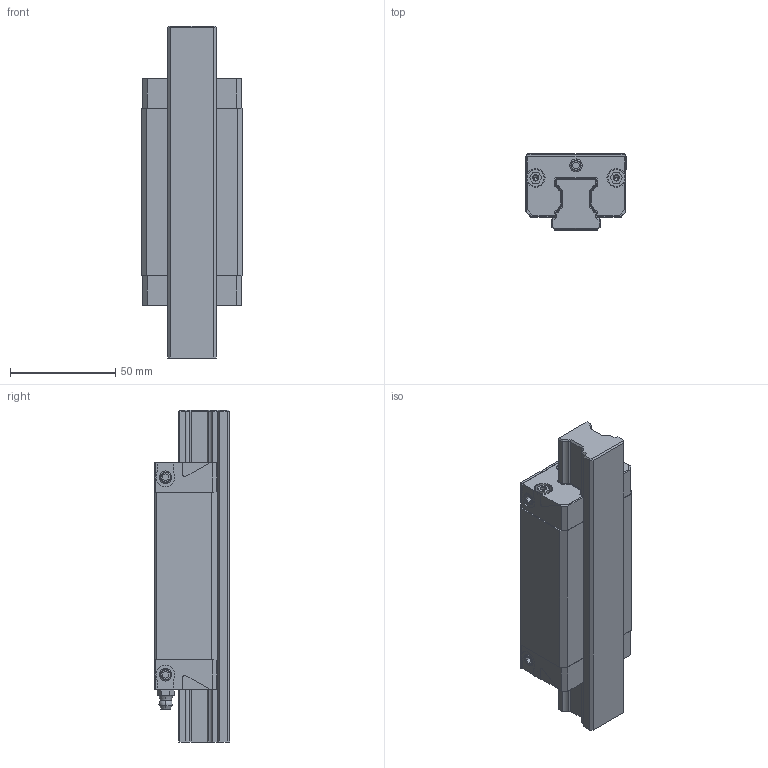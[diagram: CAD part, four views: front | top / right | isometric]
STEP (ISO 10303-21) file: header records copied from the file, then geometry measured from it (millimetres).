
FILE_DESCRIPTION((''),'2;1');
FILE_NAME('KWD_025_SLS_CS__ASM','2021-10-14T07:06:48',('ac91sw'),(''),'CREO PARAMETRIC BY PTC INC, 2020044','CREO PARAMETRIC BY PTC INC, 2020044','');
FILE_SCHEMA(('AUTOMOTIVE_DESIGN { 1 0 10303 214 1 1 1 1 }'));
Length unit declared in the file: millimetre
Products named in the file (7): KWD_025_SLS_CS__SKEL; R201220131; R200120102_Z; R343706101_Z; KWD_025_SLS_CS__PSF; R341700802_Z; KWD_025_SLS_CS__ASM
Assembly tree (11 placements, depth 2):
  KWD_025_SLS_CS__ASM
    KWD_025_SLS_CS__SKEL
    R201220131
    R200120102_Z  x2
    R343706101_Z  x5
    KWD_025_SLS_CS__PSF
    R341700802_Z
Bounding box: 48 x 36 x 157.9 mm (x, y, z)
Volume: 165924.2 mm3; surface area: 53748.4 mm2
Topology: 10 solids, 24 shells, 512 faces, 1310 edges, 830 vertices
Faces by surface type: plane 292, cylinder 142, cone 72, torus 4, sphere 2
Entity records: 16430 total; most frequent: CARTESIAN_POINT 1945, DIRECTION 1648, ORIENTED_EDGE 1540, PROPERTY_DEFINITION 823, REPRESENTATION 814, PROPERTY_DEFINITION_REPRESENTATION 814, EDGE_CURVE 786, DESCRIPTIVE_REPRESENTATION_ITEM 757
